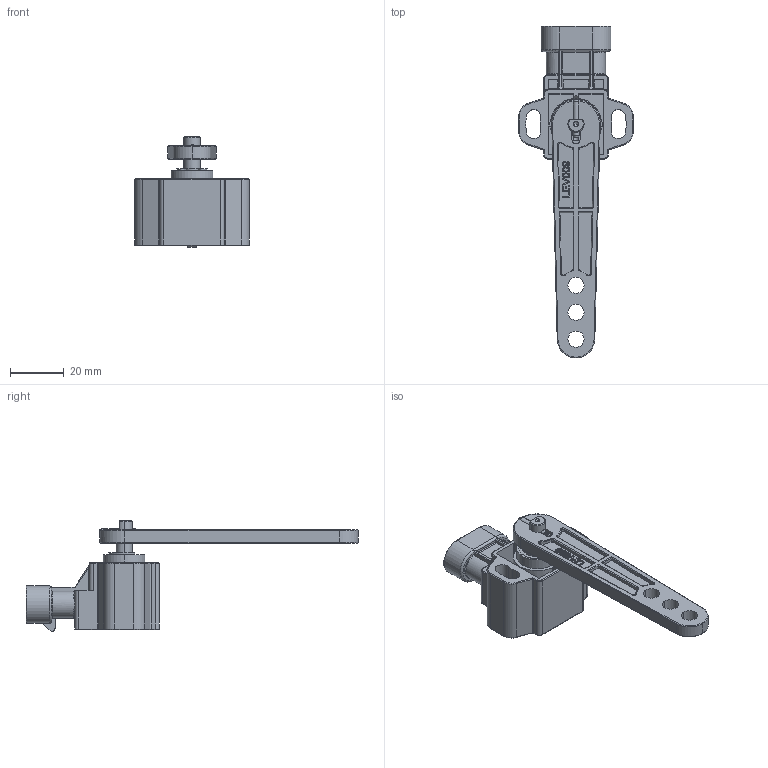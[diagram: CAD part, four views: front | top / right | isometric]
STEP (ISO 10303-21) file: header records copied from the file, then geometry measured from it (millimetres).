
FILE_DESCRIPTION (( 'STEP AP203' ), '1' );
FILE_NAME ('GR3PA S3E2SL xxx xxxx D0.STEP', '2024-12-19T14:45:31', ( '' ), ( '' ), 'SwSTEP 2.0', 'SolidWorks 2024', '' );
FILE_SCHEMA (( 'CONFIG_CONTROL_DESIGN' ));
Length unit declared in the file: millimetre
Products named in the file (1): GR3PA S3E2SL xxx xxxx D0
Bounding box: 42.5 x 123.5 x 41.07 mm (x, y, z)
Volume: 27977.4 mm3; surface area: 16850.7 mm2
Topology: 9 solids, 9 shells, 755 faces, 1844 edges, 1121 vertices
Faces by surface type: cylinder 277, plane 255, torus 82, bspline 78, cone 36, sphere 27
Entity records: 26837 total; most frequent: CARTESIAN_POINT 9424, ORIENTED_EDGE 3640, DIRECTION 3590, EDGE_CURVE 1820, AXIS2_PLACEMENT_3D 1340, VERTEX_POINT 1121, VECTOR 910, LINE 910
